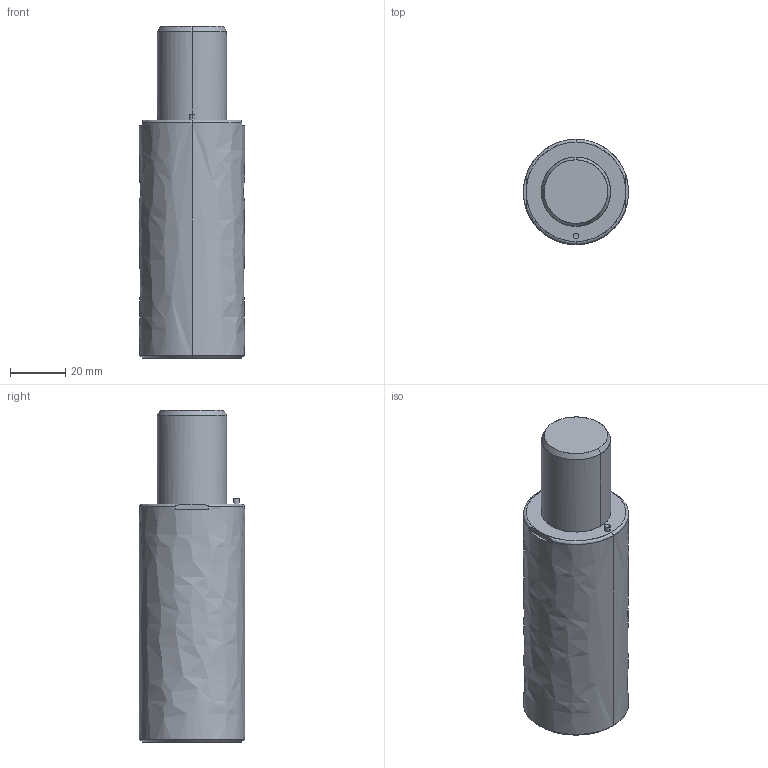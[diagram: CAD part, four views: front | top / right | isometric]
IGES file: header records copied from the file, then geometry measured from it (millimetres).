
Global section: file name: E:\UnigraphicsGraphicData\MISUMI_PRESS-PARTS\IGES\3d_gsx38-32_03977_r00.igs; native system: NX V5.0; preprocessor: UGS NX IGES V5.0; author: MISUMI; date: 20110105.160825; units: millimetre
Bounding box: 38 x 38 x 120 mm (x, y, z)
Surface area: 16326.3 mm2 (no closed solid volume)
Topology: 0 solids, 0 shells, 59 faces, 414 edges, 406 vertices
Faces by surface type: bspline 59
